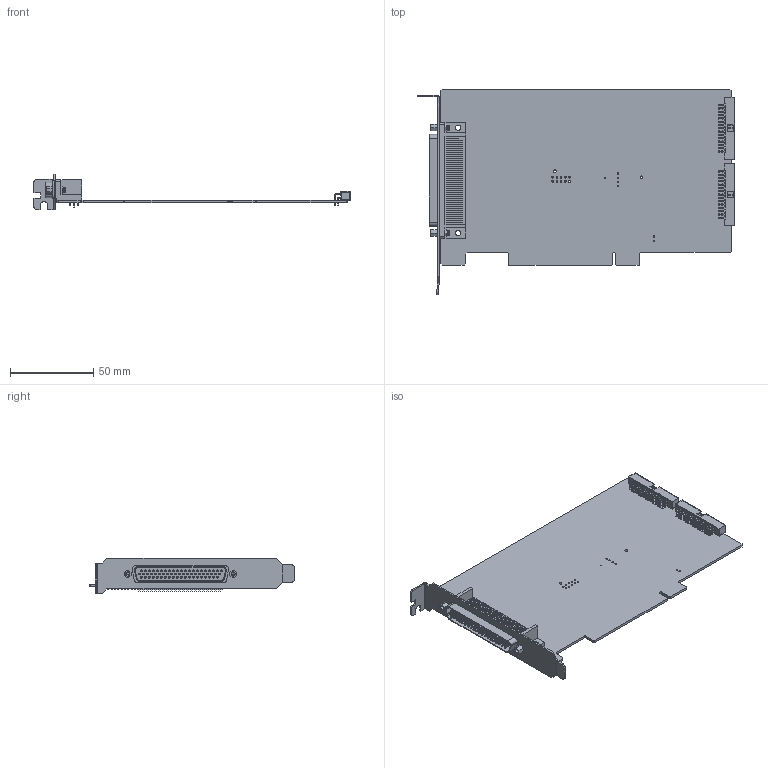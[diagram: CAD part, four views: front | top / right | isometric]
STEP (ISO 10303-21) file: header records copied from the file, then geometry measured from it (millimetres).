
FILE_DESCRIPTION (( 'STEP AP203' ), '1' );
FILE_NAME ('3Dͼֽ MPC1800 V1.0.STEP', '2022-09-30T02:52:28', ( 'Microsoft' ), ( 'Microsoft' ), 'SwSTEP 2.0', 'SolidWorks 2020', '' );
FILE_SCHEMA (( 'CONFIG_CONTROL_DESIGN' ));
Length unit declared in the file: millimetre
Products named in the file (3): MPC1800結啣; 3Dͼֽ MPC1800 V1.0; MPC1800 V1.0
Assembly tree (2 placements, depth 2):
  3Dͼֽ MPC1800 V1.0
    MPC1800 V1.0
    MPC1800結啣
Bounding box: 190.35 x 123.69 x 21.5 mm (x, y, z)
Volume: 1740.6 mm3; surface area: 54156.2 mm2
Topology: 1 solids, 5 shells, 2533 faces, 7591 edges, 4901 vertices
Faces by surface type: plane 1984, cylinder 418, sphere 124, bspline 4, cone 3
Entity records: 84033 total; most frequent: CARTESIAN_POINT 16062, DIRECTION 13880, ORIENTED_EDGE 12813, EDGE_CURVE 7402, VECTOR 5910, LINE 5910, VERTEX_POINT 4839, AXIS2_PLACEMENT_3D 3985
